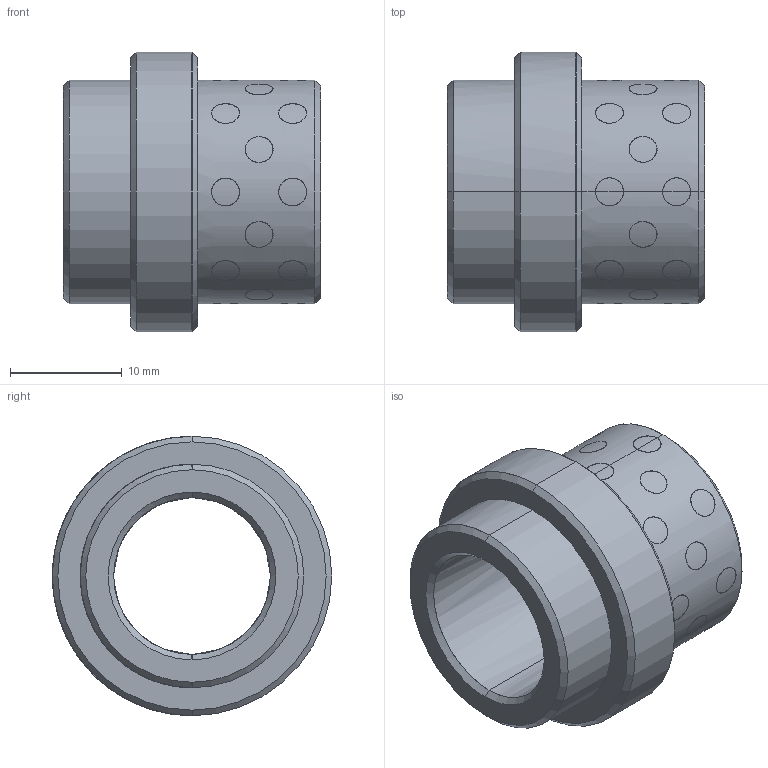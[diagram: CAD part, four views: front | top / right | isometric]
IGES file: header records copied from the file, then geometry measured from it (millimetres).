
Start section: START RECORD GO HERE.
Global section: file name: G31214017.igs; native system: DASSAULT SYSTEMES CATIA V5 R20 - www.3ds.com; preprocessor: CATIA Version 5 Release 20 ; author: r.borello; organization: CFTORINO; date: 20190624.122107; units: millimetre
Bounding box: 23 x 25 x 25 mm (x, y, z)
Surface area: 4246.7 mm2 (no closed solid volume)
Topology: 0 solids, 0 shells, 176 faces, 768 edges, 768 vertices
Faces by surface type: revolution 172, plane 4
